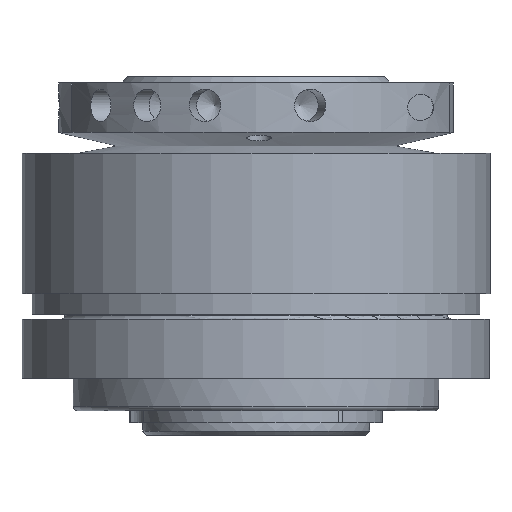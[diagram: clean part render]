
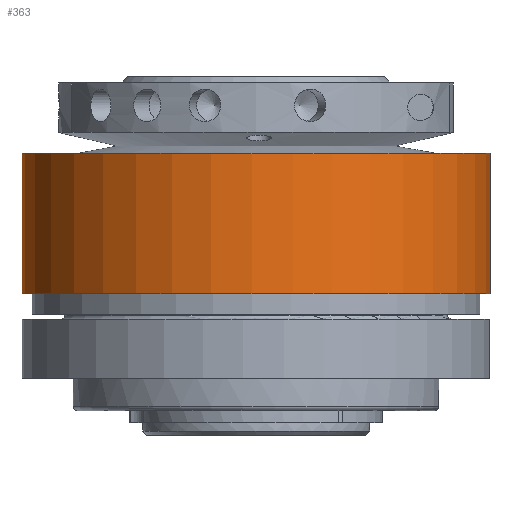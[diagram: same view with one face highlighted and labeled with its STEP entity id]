
A CAD part, front view. The second image highlights one B-rep face of the part: STEP entity #363.
In plain terms, the highlighted cylindrical face has radius 57.5 mm (diameter 115 mm), a full revolution.
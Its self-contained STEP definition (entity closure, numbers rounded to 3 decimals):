
#363 = ADVANCED_FACE( '', ( #1106, #1107 ), #1108, .T. );
#1106 = FACE_OUTER_BOUND( '', #2204, .T. );
#1107 = FACE_OUTER_BOUND( '', #2205, .T. );
#1108 = CYLINDRICAL_SURFACE( '', #2206, 57.5 );
#2204 = EDGE_LOOP( '', ( #3510 ) );
#2205 = EDGE_LOOP( '', ( #3511 ) );
#2206 = AXIS2_PLACEMENT_3D( '', #3512, #3513, #3514 );
#3510 = ORIENTED_EDGE( '', *, *, #4920, .F. );
#3511 = ORIENTED_EDGE( '', *, *, #4766, .T. );
#3512 = CARTESIAN_POINT( '', ( 0., 0., -9.3 ) );
#3513 = DIRECTION( '', ( 0., 0., -1. ) );
#3514 = DIRECTION( '', ( 0.358, 0.934, 0. ) );
#4766 = EDGE_CURVE( '', #5330, #5330, #5331, .F. );
#4920 = EDGE_CURVE( '', #5590, #5590, #5591, .F. );
#5330 = VERTEX_POINT( '', #6159 );
#5331 = CIRCLE( '', #6160, 57.5 );
#5590 = VERTEX_POINT( '', #6895 );
#5591 = CIRCLE( '', #6896, 57.5 );
#6159 = CARTESIAN_POINT( '', ( 20.585, 53.689, 25.2 ) );
#6160 = AXIS2_PLACEMENT_3D( '', #8399, #8400, #8401 );
#6895 = CARTESIAN_POINT( '', ( 20.585, 53.689, -9.3 ) );
#6896 = AXIS2_PLACEMENT_3D( '', #8643, #8644, #8645 );
#8399 = CARTESIAN_POINT( '', ( 0., 0., 25.2 ) );
#8400 = DIRECTION( '', ( 0., 0., 1. ) );
#8401 = DIRECTION( '', ( 0.358, 0.934, 0. ) );
#8643 = CARTESIAN_POINT( '', ( 0., 0., -9.3 ) );
#8644 = DIRECTION( '', ( 0., 0., 1. ) );
#8645 = DIRECTION( '', ( 0.358, 0.934, 0. ) );
